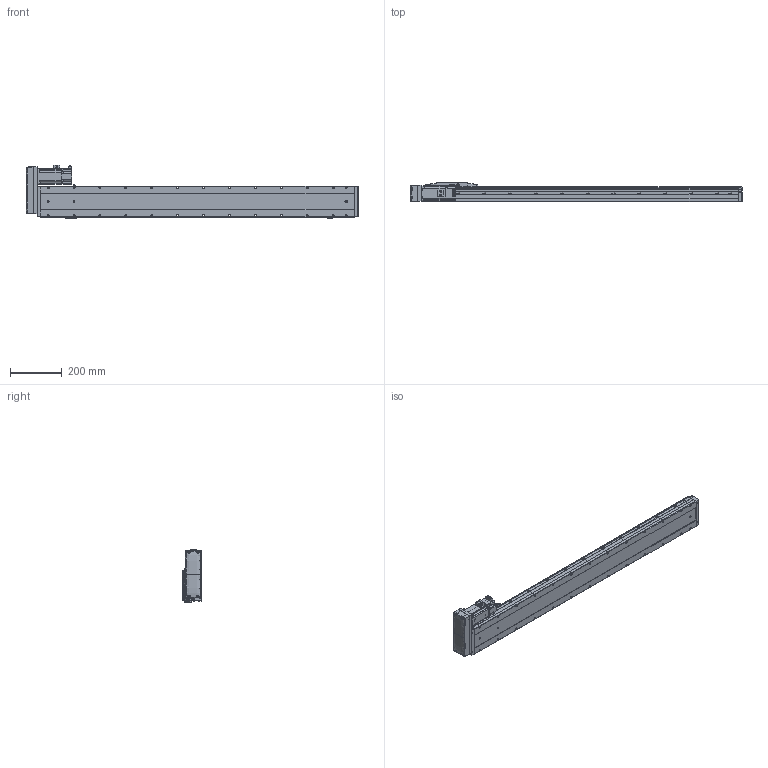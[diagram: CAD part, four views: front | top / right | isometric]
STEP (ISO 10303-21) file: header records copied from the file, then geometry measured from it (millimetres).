
FILE_DESCRIPTION (( 'STEP AP214' ), '1' );
FILE_NAME ('CTH12-L10-S1000-BL-C40（简）.STEP', '2023-02-06T03:22:37', ( '' ), ( '' ), 'SwSTEP 2.0', 'SolidWorks 2018', '' );
FILE_SCHEMA (( 'AUTOMOTIVE_DESIGN' ));
Length unit declared in the file: millimetre
Products named in the file (24): CTH12-L10-S1000-BL-C40（简）; CTH12底座-L1211简（1000行程）; CTH12; CTH12_body_3; CTH12侧装连接板（标准）简; 嫖萇羲壽郪磁1; PM-Y45; 内六角圆柱头螺钉M3-1; CTH12覜茼え; 400W萇儂; hex nuts, style 1-grades ab gb_GB_FASTENER_NUT_SNAB1 M3-N; CTH嫖萇羲壽假蚾啣; 湮賑怢  裔赽-1(CTH12)賑怢; CTH12賑怢ㄗ潠ㄘ; CTH400W假蚾啣; 嫖萇羲壽郪磁2; M5蹟隊; CTH12賑怢郪磁; 内六角圆柱头螺钉M3; CTH12耜蚾裔; CTH400W垫板（3个厚）; CTH12-BL_body_4; 蚐郲; 内六角圆柱头螺钉M3-2
Assembly tree (44 placements, depth 4):
  CTH12-L10-S1000-BL-C40（简）
    CTH12底座-L1211简（1000行程）
    蚐郲  x2
    CTH12_body_3
    CTH12-BL_body_4
    CTH12侧装连接板（标准）简
    CTH12耜蚾裔
    CTH12賑怢郪磁
      CTH12
        湮賑怢  裔赽-1(CTH12)賑怢
        CTH12賑怢ㄗ潠ㄘ
    CTH12覜茼え
    CTH400W垫板（3个厚）
    400W萇儂
    内六角圆柱头螺钉M3  x6
    M5蹟隊  x4
    嫖萇羲壽郪磁1
      CTH嫖萇羲壽假蚾啣
      PM-Y45
      内六角圆柱头螺钉M3-2  x2
      内六角圆柱头螺钉M3-1  x2
      hex nuts, style 1-grades ab gb_GB_FASTENER_NUT_SNAB1 M3-N  x2
    嫖萇羲壽郪磁2  x2
      CTH嫖萇羲壽假蚾啣
      PM-Y45
      内六角圆柱头螺钉M3-1
      内六角圆柱头螺钉M3-2
      hex nuts, style 1-grades ab gb_GB_FASTENER_NUT_SNAB1 M3-N
    CTH400W假蚾啣
Bounding box: 1281.5 x 76 x 205.26 mm (x, y, z)
Volume: 8520127.7 mm3; surface area: 810764.1 mm2
Topology: 47 solids, 48 shells, 3383 faces, 8456 edges, 5295 vertices
Faces by surface type: plane 1626, cylinder 962, cone 475, bspline 192, torus 124, sphere 4
Entity records: 111890 total; most frequent: CARTESIAN_POINT 41362, ORIENTED_EDGE 14014, DIRECTION 13289, EDGE_CURVE 7007, AXIS2_PLACEMENT_3D 4664, VERTEX_POINT 4399, VECTOR 3961, LINE 3961
